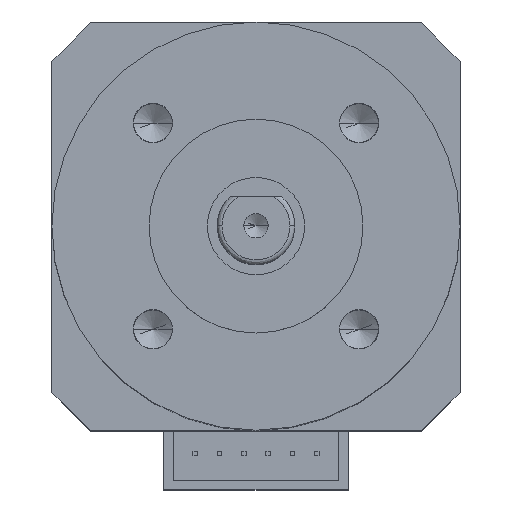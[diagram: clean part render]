
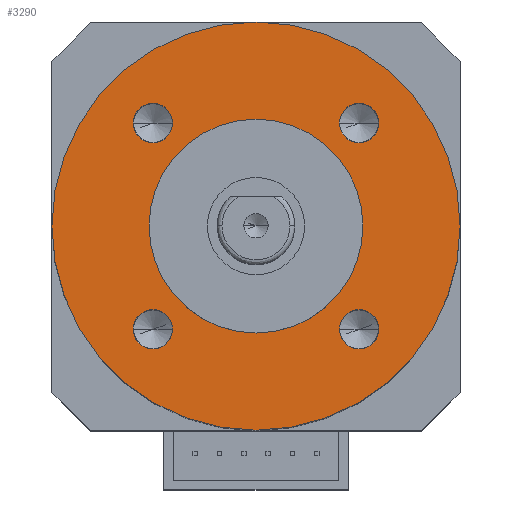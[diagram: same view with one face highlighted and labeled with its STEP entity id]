
A CAD part, top view. The second image highlights one B-rep face of the part: STEP entity #3290.
In plain terms, the highlighted planar face has unit normal (0, 0, 1).
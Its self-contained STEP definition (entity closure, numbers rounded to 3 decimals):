
#21 = ORIENTED_EDGE ( 'NONE', *, *, #1571, .F. ) ;
#83 = VERTEX_POINT ( 'NONE', #2054 ) ;
#99 = DIRECTION ( 'NONE',  ( 1., 0., 0. ) ) ;
#144 = CIRCLE ( 'NONE', #3080, 2.025 ) ;
#156 = AXIS2_PLACEMENT_3D ( 'NONE', #1990, #1445, #899 ) ;
#168 = VERTEX_POINT ( 'NONE', #1048 ) ;
#232 = DIRECTION ( 'NONE',  ( 1., 0., 0. ) ) ;
#258 = VERTEX_POINT ( 'NONE', #853 ) ;
#259 = DIRECTION ( 'NONE',  ( 0., 0., 1. ) ) ;
#325 = VERTEX_POINT ( 'NONE', #1127 ) ;
#340 = VERTEX_POINT ( 'NONE', #686 ) ;
#373 = EDGE_CURVE ( 'NONE', #1752, #325, #1138, .T. ) ;
#412 = CARTESIAN_POINT ( 'NONE',  ( 0., 0., 0. ) ) ;
#437 = CARTESIAN_POINT ( 'NONE',  ( 0., 0., 0. ) ) ;
#457 = FACE_BOUND ( 'NONE', #522, .T. ) ;
#478 = EDGE_LOOP ( 'NONE', ( #2679, #2541 ) ) ;
#495 = ORIENTED_EDGE ( 'NONE', *, *, #2492, .F. ) ;
#505 = CARTESIAN_POINT ( 'NONE',  ( -12.632, 10.607, 0. ) ) ;
#522 = EDGE_LOOP ( 'NONE', ( #2770, #3236 ) ) ;
#603 = FACE_BOUND ( 'NONE', #1062, .T. ) ;
#667 = DIRECTION ( 'NONE',  ( -1., 0., 0. ) ) ;
#686 = CARTESIAN_POINT ( 'NONE',  ( -11., 0., 0. ) ) ;
#723 = FACE_BOUND ( 'NONE', #2784, .T. ) ;
#735 = VERTEX_POINT ( 'NONE', #2867 ) ;
#779 = VERTEX_POINT ( 'NONE', #2001 ) ;
#780 = DIRECTION ( 'NONE',  ( 1., 0., 0. ) ) ;
#816 = CARTESIAN_POINT ( 'NONE',  ( 0., 0., 0. ) ) ;
#853 = CARTESIAN_POINT ( 'NONE',  ( -8.582, 10.607, 0. ) ) ;
#899 = DIRECTION ( 'NONE',  ( -1., 0., 0. ) ) ;
#914 = CARTESIAN_POINT ( 'NONE',  ( -10.607, 10.607, 0. ) ) ;
#991 = DIRECTION ( 'NONE',  ( 1., 0., 0. ) ) ;
#1017 = EDGE_LOOP ( 'NONE', ( #2663, #1917 ) ) ;
#1029 = CARTESIAN_POINT ( 'NONE',  ( 10.607, 10.607, 0. ) ) ;
#1048 = CARTESIAN_POINT ( 'NONE',  ( 21., 0., 0. ) ) ;
#1062 = EDGE_LOOP ( 'NONE', ( #21, #3590 ) ) ;
#1065 = VERTEX_POINT ( 'NONE', #1983 ) ;
#1079 = CIRCLE ( 'NONE', #2240, 2.025 ) ;
#1086 = CARTESIAN_POINT ( 'NONE',  ( 10.607, -10.607, 0. ) ) ;
#1103 = EDGE_CURVE ( 'NONE', #1659, #2047, #1136, .T. ) ;
#1112 = CIRCLE ( 'NONE', #3252, 11. ) ;
#1113 = DIRECTION ( 'NONE',  ( 0., 0., 1. ) ) ;
#1127 = CARTESIAN_POINT ( 'NONE',  ( -12.632, -10.607, 0. ) ) ;
#1131 = CIRCLE ( 'NONE', #1228, 2.025 ) ;
#1136 = CIRCLE ( 'NONE', #3425, 2.025 ) ;
#1138 = CIRCLE ( 'NONE', #3278, 2.025 ) ;
#1145 = AXIS2_PLACEMENT_3D ( 'NONE', #816, #1387, #232 ) ;
#1213 = DIRECTION ( 'NONE',  ( 0., 0., 1. ) ) ;
#1228 = AXIS2_PLACEMENT_3D ( 'NONE', #914, #3168, #2311 ) ;
#1231 = ORIENTED_EDGE ( 'NONE', *, *, #2291, .F. ) ;
#1242 = CIRCLE ( 'NONE', #2360, 2.025 ) ;
#1326 = DIRECTION ( 'NONE',  ( 0., 0., 1. ) ) ;
#1375 = AXIS2_PLACEMENT_3D ( 'NONE', #2570, #1991, #3431 ) ;
#1387 = DIRECTION ( 'NONE',  ( 0., 0., -1. ) ) ;
#1415 = DIRECTION ( 'NONE',  ( 1., 0., 0. ) ) ;
#1438 = AXIS2_PLACEMENT_3D ( 'NONE', #2855, #259, #1953 ) ;
#1445 = DIRECTION ( 'NONE',  ( 0., 0., 1. ) ) ;
#1448 = EDGE_CURVE ( 'NONE', #325, #1752, #2947, .T. ) ;
#1506 = EDGE_CURVE ( 'NONE', #258, #2361, #2810, .T. ) ;
#1514 = DIRECTION ( 'NONE',  ( 1., 0., 0. ) ) ;
#1571 = EDGE_CURVE ( 'NONE', #340, #1065, #2080, .T. ) ;
#1614 = EDGE_CURVE ( 'NONE', #2361, #258, #1131, .T. ) ;
#1656 = CARTESIAN_POINT ( 'NONE',  ( -10.607, 10.607, 0. ) ) ;
#1659 = VERTEX_POINT ( 'NONE', #2708 ) ;
#1752 = VERTEX_POINT ( 'NONE', #2772 ) ;
#1816 = CIRCLE ( 'NONE', #1843, 21. ) ;
#1843 = AXIS2_PLACEMENT_3D ( 'NONE', #437, #2393, #1514 ) ;
#1892 = FACE_BOUND ( 'NONE', #478, .T. ) ;
#1917 = ORIENTED_EDGE ( 'NONE', *, *, #2972, .F. ) ;
#1938 = DIRECTION ( 'NONE',  ( 1., 0., 0. ) ) ;
#1953 = DIRECTION ( 'NONE',  ( 1., 0., 0. ) ) ;
#1983 = CARTESIAN_POINT ( 'NONE',  ( 11., 0., 0. ) ) ;
#1990 = CARTESIAN_POINT ( 'NONE',  ( 0., 0., 0. ) ) ;
#1991 = DIRECTION ( 'NONE',  ( 0., 0., -1. ) ) ;
#2001 = CARTESIAN_POINT ( 'NONE',  ( -21., 0., 0. ) ) ;
#2031 = DIRECTION ( 'NONE',  ( 0., 0., 1. ) ) ;
#2047 = VERTEX_POINT ( 'NONE', #2257 ) ;
#2054 = CARTESIAN_POINT ( 'NONE',  ( 12.632, 10.607, 0. ) ) ;
#2069 = DIRECTION ( 'NONE',  ( 0., 0., 1. ) ) ;
#2080 = CIRCLE ( 'NONE', #156, 11. ) ;
#2240 = AXIS2_PLACEMENT_3D ( 'NONE', #1086, #1326, #780 ) ;
#2257 = CARTESIAN_POINT ( 'NONE',  ( 8.582, -10.607, 0. ) ) ;
#2291 = EDGE_CURVE ( 'NONE', #779, #168, #1816, .T. ) ;
#2311 = DIRECTION ( 'NONE',  ( 1., 0., 0. ) ) ;
#2348 = CARTESIAN_POINT ( 'NONE',  ( -10.607, -10.607, 0. ) ) ;
#2360 = AXIS2_PLACEMENT_3D ( 'NONE', #1029, #3566, #1415 ) ;
#2361 = VERTEX_POINT ( 'NONE', #505 ) ;
#2370 = AXIS2_PLACEMENT_3D ( 'NONE', #1656, #1113, #1938 ) ;
#2393 = DIRECTION ( 'NONE',  ( 0., 0., -1. ) ) ;
#2471 = EDGE_CURVE ( 'NONE', #735, #83, #144, .T. ) ;
#2492 = EDGE_CURVE ( 'NONE', #168, #779, #3087, .T. ) ;
#2541 = ORIENTED_EDGE ( 'NONE', *, *, #1448, .F. ) ;
#2570 = CARTESIAN_POINT ( 'NONE',  ( -21., -21., 0. ) ) ;
#2663 = ORIENTED_EDGE ( 'NONE', *, *, #1103, .F. ) ;
#2679 = ORIENTED_EDGE ( 'NONE', *, *, #373, .F. ) ;
#2708 = CARTESIAN_POINT ( 'NONE',  ( 12.632, -10.607, 0. ) ) ;
#2729 = DIRECTION ( 'NONE',  ( 0., 0., 1. ) ) ;
#2770 = ORIENTED_EDGE ( 'NONE', *, *, #3668, .F. ) ;
#2772 = CARTESIAN_POINT ( 'NONE',  ( -8.582, -10.607, 0. ) ) ;
#2784 = EDGE_LOOP ( 'NONE', ( #2918, #2920 ) ) ;
#2810 = CIRCLE ( 'NONE', #2370, 2.025 ) ;
#2833 = EDGE_LOOP ( 'NONE', ( #495, #1231 ) ) ;
#2855 = CARTESIAN_POINT ( 'NONE',  ( -10.607, -10.607, 0. ) ) ;
#2867 = CARTESIAN_POINT ( 'NONE',  ( 8.582, 10.607, 0. ) ) ;
#2884 = FACE_BOUND ( 'NONE', #1017, .T. ) ;
#2918 = ORIENTED_EDGE ( 'NONE', *, *, #1506, .F. ) ;
#2920 = ORIENTED_EDGE ( 'NONE', *, *, #1614, .F. ) ;
#2938 = CARTESIAN_POINT ( 'NONE',  ( 10.607, -10.607, 0. ) ) ;
#2947 = CIRCLE ( 'NONE', #1438, 2.025 ) ;
#2972 = EDGE_CURVE ( 'NONE', #2047, #1659, #1079, .T. ) ;
#3080 = AXIS2_PLACEMENT_3D ( 'NONE', #3623, #2729, #3596 ) ;
#3087 = CIRCLE ( 'NONE', #1145, 21. ) ;
#3159 = PLANE ( 'NONE',  #1375 ) ;
#3168 = DIRECTION ( 'NONE',  ( 0., 0., 1. ) ) ;
#3236 = ORIENTED_EDGE ( 'NONE', *, *, #2471, .F. ) ;
#3252 = AXIS2_PLACEMENT_3D ( 'NONE', #412, #1213, #667 ) ;
#3278 = AXIS2_PLACEMENT_3D ( 'NONE', #2348, #2069, #991 ) ;
#3290 = ADVANCED_FACE ( 'NONE', ( #723, #457, #2884, #1892, #3389, #603 ), #3159, .F. ) ;
#3346 = EDGE_CURVE ( 'NONE', #1065, #340, #1112, .T. ) ;
#3389 = FACE_OUTER_BOUND ( 'NONE', #2833, .T. ) ;
#3425 = AXIS2_PLACEMENT_3D ( 'NONE', #2938, #2031, #99 ) ;
#3431 = DIRECTION ( 'NONE',  ( -1., 0., 0. ) ) ;
#3566 = DIRECTION ( 'NONE',  ( 0., 0., 1. ) ) ;
#3590 = ORIENTED_EDGE ( 'NONE', *, *, #3346, .F. ) ;
#3596 = DIRECTION ( 'NONE',  ( 1., 0., 0. ) ) ;
#3623 = CARTESIAN_POINT ( 'NONE',  ( 10.607, 10.607, 0. ) ) ;
#3668 = EDGE_CURVE ( 'NONE', #83, #735, #1242, .T. ) ;
